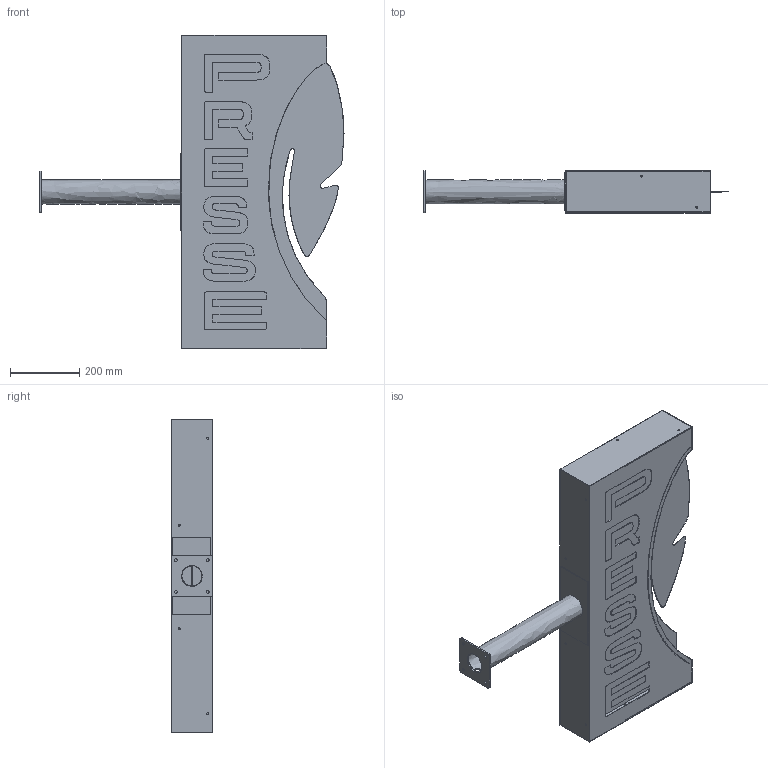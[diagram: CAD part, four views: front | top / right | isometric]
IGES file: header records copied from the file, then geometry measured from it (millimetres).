
Global section: file name: /Users/jacques/Desktop/DESIGN/2023/PLUME/PLUME-FINALE/MODELISATION-KIT/PLUME-POTENCE.igs; native system: Rhinoceros ( Nov 10 2020 ); preprocessor: Trout Lake IGES 012 Nov 10 2020; date: 250311.174439; units: millimetre
Bounding box: 876.94 x 120.5 x 904 mm (x, y, z)
Surface area: 3256224.1 mm2 (no closed solid volume)
Topology: 0 solids, 0 shells, 499 faces, 5586 edges, 5372 vertices
Faces by surface type: bspline 499
